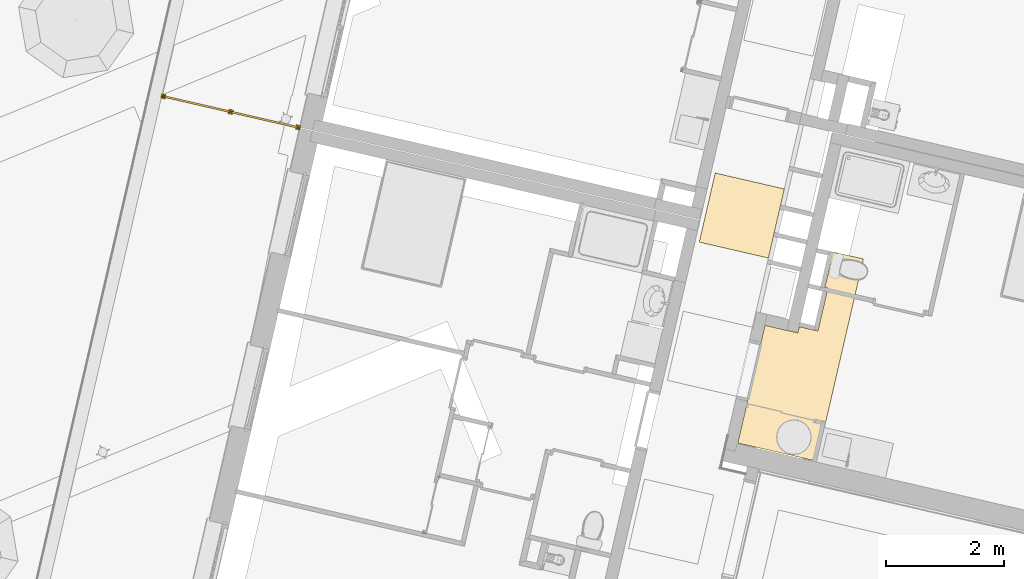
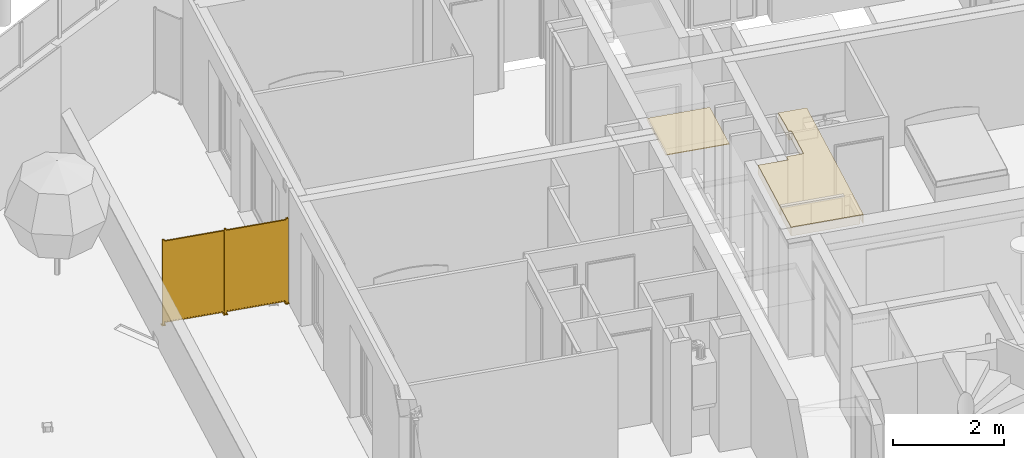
# One storey, part 72 of 119: 2 coverings, 1 railing.
"""IFC2X3 building model written with IfcOpenShell, lengths in metres."""

from ifc_helpers import new_model, entity, si_unit, converted_unit, derived_unit, money_unit, direction, frame, origin_with_axes, place, context, subcontext, project, spatial, faceted_brep, material, material_list, type_object, element, save


model = new_model("IFC2X3")

# Units and contexts
model_context = context("Model", 3, precision=1e-05, world=origin_with_axes(), true_north=direction((0.0, 1.0)))
body_context = subcontext(model_context, "Body", "Model", "MODEL_VIEW")
ifc_project = project(units=[si_unit("LENGTHUNIT", "METRE"), si_unit("AREAUNIT", "SQUARE_METRE"), si_unit("VOLUMEUNIT", "CUBIC_METRE"), converted_unit("PLANEANGLEUNIT", "DEGREE", entity("IfcPlaneAngleMeasure", 0.0174532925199), si_unit("PLANEANGLEUNIT", "RADIAN"), dimensions=[0, 0, 0, 0, 0, 0, 0]), si_unit("SOLIDANGLEUNIT", "STERADIAN"), money_unit("EUR"), converted_unit("TIMEUNIT", "Year", entity("IfcTimeMeasure", 31556926.0), si_unit("TIMEUNIT", "SECOND"), dimensions=[0, 0, 1, 0, 0, 0, 0]), si_unit("MASSUNIT", "GRAM", prefix="KILO"), si_unit("THERMODYNAMICTEMPERATUREUNIT", "DEGREE_CELSIUS"), si_unit("LUMINOUSINTENSITYUNIT", "LUMEN"), si_unit("ENERGYUNIT", "JOULE", prefix="MEGA"), derived_unit("THERMALCONDUCTANCEUNIT", [(si_unit("POWERUNIT", "WATT"), 1), (si_unit("LENGTHUNIT", "METRE"), -1), (si_unit("THERMODYNAMICTEMPERATUREUNIT", "KELVIN"), -1)]), derived_unit("SPECIFICHEATCAPACITYUNIT", [(si_unit("ENERGYUNIT", "JOULE"), 1), (si_unit("MASSUNIT", "GRAM", prefix="KILO"), -1), (si_unit("THERMODYNAMICTEMPERATUREUNIT", "KELVIN"), -1)]), derived_unit("MASSDENSITYUNIT", [(si_unit("MASSUNIT", "GRAM", prefix="KILO"), 1), (si_unit("VOLUMEUNIT", "CUBIC_METRE"), -1)])], contexts=[model_context])

# Site, building, storey
site_placement = place(None, origin_with_axes())
site = spatial("IfcSite", under=ifc_project, at=site_placement, Name="Site", CompositionType="ELEMENT")
building_placement = place(site_placement, origin_with_axes())
building = spatial("IfcBuilding", under=site, at=building_placement, Name="Bâtiment", CompositionType="ELEMENT")
storey_placement = place(building_placement, origin_with_axes())
storey = spatial("IfcBuildingStorey", under=building, at=storey_placement, Name="Rez-de-chaussée", CompositionType="ELEMENT", Elevation=0.0)

# Coverings
ifc_material_1 = material(Name="Finition int - Plaque de plâtre")
covering_type_1 = type_object("IfcCoveringType", Name="Finition int - Plaque de plâtre 200", PredefinedType="CEILING")
covering_1_placement = place(storey_placement, frame((-9.51132272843, -1.33814779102, 2.51), z_axis=(0.0, 0.0, 1.0), x_axis=(1.0, 0.0, 0.0)))
element("IfcCovering", 1, at=covering_1_placement, inside=storey, type_object=covering_type_1, material=ifc_material_1, Name="Dalle_003", PredefinedType="CEILING", context=body_context, shape_type="Brep", body=[
    faceted_brep([(1.4876015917, 0.353528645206, -0.2), (1.97278372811, 2.45582020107, -0.2), (1.97278372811, 2.45582020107, -0.01), (1.98357778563, 2.50259079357, -0.01), (1.98357778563, 2.50259079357, -0.2), (2.12458803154, 3.11358742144, -0.2), (2.12458803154, 3.11358742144, 0.0), (1.4876015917, 0.353528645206, 0.0), (1.35480705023, 1.89485086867, -0.2), (1.50897535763, 2.56286127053, -0.2), (1.33240930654, -0.307503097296, -0.2), (1.31970314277, -0.304570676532, -0.2), (1.47284383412, 0.358987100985, -0.2), (1.42607324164, 0.369781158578, -0.2), (0.153140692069, 0.663557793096, -0.2), (0.459546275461, 1.99121145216, -0.2), (1.0149470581, 1.86303198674, -0.2), (1.03910559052, 1.96771076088, -0.2), (1.50897591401, 2.56286114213, -0.01), (1.51976955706, 2.60963183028, -0.01), (1.51976941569, 2.6096318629, -0.2), (1.52344606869, 2.62556277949, -0.2), (1.47299906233, 2.63376758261, -0.2), (1.51774942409, 2.82767066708, -0.2), (1.59841889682, 3.23502055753, -0.2), (1.59841889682, 3.23502055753, 0.0), (1.0149470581, 1.86303198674, 0.0), (0.459546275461, 1.99121145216, 0.0), (0.0, 0.0, 0.0), (1.33240930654, -0.307503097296, 0.0), (1.51774942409, 2.82767066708, 0.0), (1.47299906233, 2.63376758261, 0.0), (1.52344606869, 2.62556277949, 0.0), (1.35480705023, 1.89485086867, 0.0), (1.03910559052, 1.96771076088, 0.0), (1.27293255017, -0.293776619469, -0.01), (1.31970314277, -0.304570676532, -0.01), (0.0, 0.0, -0.2), (1.27293255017, -0.293776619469, -0.2), (1.47284383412, 0.358987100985, -0.01), (1.42607324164, 0.369781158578, -0.01), (0.153140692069, 0.663557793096, -0.01), (0.142346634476, 0.616787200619, -0.01), (0.142346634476, 0.616787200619, -0.2), (1.41527918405, 0.3230105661, -0.01), (1.41527918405, 0.3230105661, -0.2)], [[[0, 1, 2, 3, 4, 5, 6, 7]], [[8, 9, 1, 0, 10, 11, 12, 13, 14, 15, 16, 17]], [[18, 2, 1, 9]], [[19, 3, 2, 18]], [[20, 4, 3, 19]], [[5, 4, 20, 21, 22, 23, 24]], [[25, 6, 5, 24]], [[26, 27, 28, 29, 7, 6, 25, 30, 31, 32, 33, 34]], [[7, 29, 10, 0]], [[19, 18, 9, 8, 33, 32, 21, 20]], [[35, 36, 11, 10, 29, 28, 37, 38]], [[39, 12, 11, 36]], [[39, 40, 13, 12]], [[14, 13, 40, 41]], [[41, 42, 43, 37, 28, 27, 15, 14]], [[27, 26, 16, 15]], [[26, 34, 17, 16]], [[34, 33, 8, 17]], [[32, 31, 22, 21]], [[31, 30, 23, 22]], [[30, 25, 24, 23]], [[35, 44, 42, 41, 40, 39, 36]], [[37, 43, 45, 38]], [[38, 45, 44, 35]], [[42, 44, 45, 43]]]),
])
ifc_material_2 = material(Name="Finition int - Plaque de plâtre ACOUSTIQUE type GYPTONE")
covering_type_2 = type_object("IfcCoveringType", Name="Finition int - Plaque de plâtre ACOUSTIQUE type GYPTONE 15", PredefinedType="CEILING")
covering_2_placement = place(storey_placement, frame((-10.163731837, 2.06061484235, 2.272), z_axis=(0.0, 0.0, 1.0), x_axis=(1.0, 0.0, 0.0)))
element("IfcCovering", 2, at=covering_2_placement, inside=storey, type_object=covering_type_2, material=ifc_material_2, Name="Dalle_004", PredefinedType="CEILING", context=body_context, shape_type="Brep", body=[
    faceted_brep([(0.0, 0.0, 0.0), (0.0, 0.0, -0.015), (1.16926481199, -0.269851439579, -0.015), (1.16926481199, -0.269851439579, 0.0), (0.269851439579, 1.16926481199, 0.0), (0.269851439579, 1.16926481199, -0.015), (1.43911625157, 0.899413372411, -0.015), (1.43911625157, 0.899413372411, 0.0)], [[[0, 1, 2, 3]], [[4, 5, 1, 0]], [[2, 1, 5, 6]], [[3, 2, 6, 7]], [[4, 0, 3, 7]], [[7, 6, 5, 4]]]),
])

# Railing
ifc_material_3 = material(Name="Métal - Acier")
ifc_material_4 = material(Name="Métal - Acier inoxidable")
ifc_material_5 = material(Name="Vitrage")
ifc_material_list = material_list([ifc_material_3, ifc_material_3, ifc_material_4, ifc_material_5, ifc_material_3, ifc_material_4, ifc_material_5])
railing_type = type_object("IfcRailingType", Name="Type de garde-corps", PredefinedType="NOTDEFINED")
railing_placement = place(storey_placement, frame((-19.2284618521, 4.52596641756, 0.2), z_axis=(0.0, 0.0, 1.0), x_axis=(1.0, 0.0, 0.0)))
element("IfcRailing", 3, at=railing_placement, inside=storey, type_object=railing_type, material=ifc_material_list, Name="Pare-vue acier laqué+verre dépoli H=190", PredefinedType="NOTDEFINED", context=body_context, shape_type="Brep", body=[
    faceted_brep([(0.0179889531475, 0.0112426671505, 0.01), (0.0112426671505, -0.0179889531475, 0.01), (0.0112426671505, -0.0179889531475, 1.88), (0.0179889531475, 0.0112426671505, 1.88), (0.0239852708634, 0.0149902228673, 0.01), (0.0149902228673, -0.0239852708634, 0.01), (-0.0239852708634, -0.0149902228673, 0.01), (-0.0149902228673, 0.0239852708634, 0.01), (-0.0179889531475, -0.0112426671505, 0.01), (-0.0112426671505, 0.0179889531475, 0.01), (-0.0179889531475, -0.0112426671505, 1.88), (-0.0239852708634, -0.0149902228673, 1.88), (0.0149902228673, -0.0239852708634, 1.88), (0.0239852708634, 0.0149902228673, 1.88), (-0.0149902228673, 0.0239852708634, 1.88), (-0.0112426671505, 0.0179889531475, 1.88)], [[[0, 1, 2, 3]], [[4, 5, 6, 7], [8, 1, 0, 9]], [[1, 8, 10, 2]], [[11, 12, 13, 14], [3, 2, 10, 15]], [[9, 0, 3, 15]], [[5, 4, 13, 12]], [[6, 5, 12, 11]], [[7, 6, 11, 14]], [[4, 7, 14, 13]], [[8, 9, 15, 10]]]),
    faceted_brep([(-0.0299804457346, 0.0479705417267, 0.0), (-0.0299804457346, 0.0479705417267, 0.01), (0.0479705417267, 0.0299804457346, 0.01), (0.0479705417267, 0.0299804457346, 0.0), (-0.0479705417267, -0.0299804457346, 0.0), (-0.0479705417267, -0.0299804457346, 0.01), (0.0299804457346, -0.0479705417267, 0.01), (0.0299804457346, -0.0479705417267, 0.0)], [[[0, 1, 2, 3]], [[4, 5, 1, 0]], [[1, 5, 6, 2]], [[3, 2, 6, 7]], [[0, 3, 7, 4]], [[7, 6, 5, 4]]]),
    faceted_brep([(2.29481237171, -0.514219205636, 0.01), (2.28806608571, -0.543450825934, 0.01), (2.28806608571, -0.543450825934, 1.88), (2.29481237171, -0.514219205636, 1.88), (2.30080868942, -0.510471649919, 0.01), (2.29181364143, -0.54944714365, 0.01), (2.2528381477, -0.540452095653, 0.01), (2.26183319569, -0.501476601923, 0.01), (2.25883446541, -0.536704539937, 0.01), (2.26558075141, -0.507472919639, 0.01), (2.25883446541, -0.536704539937, 1.88), (2.2528381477, -0.540452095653, 1.88), (2.29181364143, -0.54944714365, 1.88), (2.30080868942, -0.510471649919, 1.88), (2.26183319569, -0.501476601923, 1.88), (2.26558075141, -0.507472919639, 1.88)], [[[0, 1, 2, 3]], [[4, 5, 6, 7], [8, 1, 0, 9]], [[1, 8, 10, 2]], [[11, 12, 13, 14], [3, 2, 10, 15]], [[9, 0, 3, 15]], [[5, 4, 13, 12]], [[6, 5, 12, 11]], [[7, 6, 11, 14]], [[4, 7, 14, 13]], [[8, 9, 15, 10]]]),
    faceted_brep([(2.24684297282, -0.477491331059, 0.0), (2.24684297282, -0.477491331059, 0.01), (2.32479396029, -0.495481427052, 0.01), (2.32479396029, -0.495481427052, 0.0), (2.22885287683, -0.555442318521, 0.0), (2.22885287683, -0.555442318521, 0.01), (2.30680386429, -0.573432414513, 0.01), (2.30680386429, -0.573432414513, 0.0)], [[[0, 1, 2, 3]], [[4, 5, 1, 0]], [[1, 5, 6, 2]], [[3, 2, 6, 7]], [[0, 3, 7, 4]], [[7, 6, 5, 4]]]),
    faceted_brep([(1.14178485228, -0.248115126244, 0.05), (0.00337314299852, 0.014615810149, 0.05), (0.00337314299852, 0.014615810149, 1.85), (1.14178485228, -0.248115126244, 1.85), (0.0228608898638, 0.010118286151, 1.83), (0.0228608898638, 0.010118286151, 0.07), (1.12229710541, -0.243617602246, 0.07), (1.12229710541, -0.243617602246, 1.83), (-0.00337314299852, -0.014615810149, 0.05), (1.13503856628, -0.277346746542, 0.05), (-0.00337314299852, -0.014615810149, 1.85), (1.13503856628, -0.277346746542, 1.85), (0.0161146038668, -0.019113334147, 0.07), (0.0161146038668, -0.019113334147, 1.83), (1.11555081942, -0.272849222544, 0.07), (1.11555081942, -0.272849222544, 1.83)], [[[0, 1, 2, 3], [4, 5, 6, 7]], [[8, 1, 0, 9]], [[10, 2, 1, 8]], [[3, 2, 10, 11]], [[0, 3, 11, 9]], [[12, 5, 4, 13]], [[14, 6, 5, 12]], [[7, 6, 14, 15]], [[4, 7, 15, 13]], [[10, 8, 9, 11], [14, 12, 13, 15]]]),
    faceted_brep([(1.12117272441, -0.248489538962, 0.07), (0.0217365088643, 0.00524634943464, 0.07), (0.0217365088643, 0.00524634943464, 1.83), (1.12117272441, -0.248489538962, 1.83), (0.0172389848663, -0.0142413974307, 0.07), (1.11667520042, -0.267977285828, 0.07), (0.0172389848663, -0.0142413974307, 1.83), (1.11667520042, -0.267977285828, 1.83)], [[[0, 1, 2, 3]], [[4, 1, 0, 5]], [[6, 2, 1, 4]], [[3, 2, 6, 7]], [[0, 3, 7, 5]], [[6, 4, 5, 7]]]),
    faceted_brep([(1.15640066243, -0.251488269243, 0.01), (1.14965437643, -0.280719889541, 0.01), (1.14965437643, -0.280719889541, 1.88), (1.15640066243, -0.251488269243, 1.88), (1.16239698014, -0.247740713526, 0.01), (1.15340193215, -0.286716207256, 0.01), (1.11442643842, -0.27772115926, 0.01), (1.12342148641, -0.23874566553, 0.01), (1.12042275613, -0.273973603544, 0.01), (1.12716904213, -0.244741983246, 0.01), (1.12042275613, -0.273973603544, 1.88), (1.11442643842, -0.27772115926, 1.88), (1.15340193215, -0.286716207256, 1.88), (1.16239698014, -0.247740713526, 1.88), (1.12342148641, -0.23874566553, 1.88), (1.12716904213, -0.244741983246, 1.88)], [[[0, 1, 2, 3]], [[4, 5, 6, 7], [8, 1, 0, 9]], [[1, 8, 10, 2]], [[11, 12, 13, 14], [3, 2, 10, 15]], [[9, 0, 3, 15]], [[5, 4, 13, 12]], [[6, 5, 12, 11]], [[7, 6, 11, 14]], [[4, 7, 14, 13]], [[8, 9, 15, 10]]]),
    faceted_brep([(1.10843126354, -0.214760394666, 0.0), (1.10843126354, -0.214760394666, 0.01), (1.18638225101, -0.232750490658, 0.01), (1.18638225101, -0.232750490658, 0.0), (1.09044116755, -0.292711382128, 0.0), (1.09044116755, -0.292711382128, 0.01), (1.16839215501, -0.31070147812, 0.01), (1.16839215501, -0.31070147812, 0.0)], [[[0, 1, 2, 3]], [[4, 5, 1, 0]], [[1, 5, 6, 2]], [[3, 2, 6, 7]], [[0, 3, 7, 4]], [[7, 6, 5, 4]]]),
    faceted_brep([(2.28019656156, -0.510846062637, 0.05), (1.14178485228, -0.248115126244, 0.05), (1.14178485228, -0.248115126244, 1.85), (2.28019656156, -0.510846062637, 1.85), (1.16127259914, -0.252612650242, 1.83), (1.16127259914, -0.252612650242, 0.07), (2.26070881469, -0.506348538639, 0.07), (2.26070881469, -0.506348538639, 1.83), (1.13503856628, -0.277346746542, 0.05), (2.27345027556, -0.540077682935, 0.05), (1.13503856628, -0.277346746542, 1.85), (2.27345027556, -0.540077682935, 1.85), (1.15452631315, -0.28184427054, 0.07), (1.15452631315, -0.28184427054, 1.83), (2.2539625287, -0.535580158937, 0.07), (2.2539625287, -0.535580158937, 1.83)], [[[0, 1, 2, 3], [4, 5, 6, 7]], [[8, 1, 0, 9]], [[10, 2, 1, 8]], [[3, 2, 10, 11]], [[0, 3, 11, 9]], [[12, 5, 4, 13]], [[14, 6, 5, 12]], [[7, 6, 14, 15]], [[4, 7, 15, 13]], [[10, 8, 9, 11], [14, 12, 13, 15]]]),
    faceted_brep([(2.25958443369, -0.511220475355, 0.07), (1.16014821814, -0.257484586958, 0.07), (1.16014821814, -0.257484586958, 1.83), (2.25958443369, -0.511220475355, 1.83), (1.15565069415, -0.276972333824, 0.07), (2.25508690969, -0.530708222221, 0.07), (1.15565069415, -0.276972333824, 1.83), (2.25508690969, -0.530708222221, 1.83)], [[[0, 1, 2, 3]], [[4, 1, 0, 5]], [[6, 2, 1, 4]], [[3, 2, 6, 7]], [[0, 3, 7, 5]], [[6, 4, 5, 7]]]),
])

save(model, "model.ifc")
